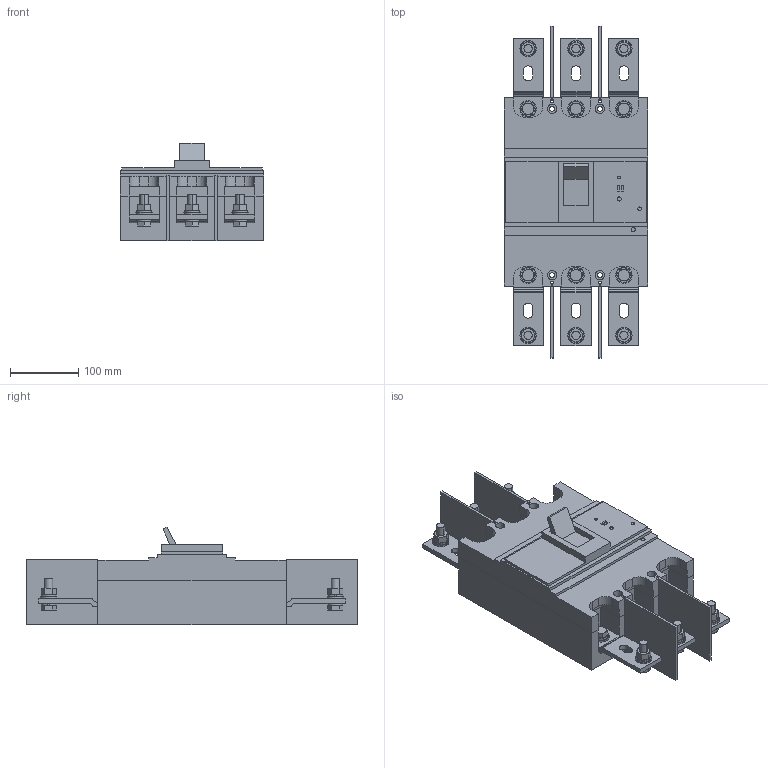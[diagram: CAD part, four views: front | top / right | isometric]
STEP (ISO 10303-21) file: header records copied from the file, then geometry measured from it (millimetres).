
FILE_DESCRIPTION (( 'STEP AP214' ), '1' );
FILE_NAME ('EW630EAG-3P.STEP', '2022-11-21T01:59:58', ( '' ), ( '' ), 'SwSTEP 2.0', 'SolidWorks 2021', '' );
FILE_SCHEMA (( 'AUTOMOTIVE_DESIGN' ));
Length unit declared in the file: millimetre
Products named in the file (11): アルミ端子板t7_630A.1; Hexagon_Nut_M12; terminal^EW630EAG-3P; Springwasher_M12; EW630-800EAG-3P_CASE; Hexagon_Bolt_M12_L40; Washer_M12; EW630EAG_Switch; B-43A; EW630EAG-3P; Hexagon_Bolt_M10_L25
Assembly tree (21 placements, depth 3):
  EW630EAG-3P
    EW630-800EAG-3P_CASE
    EW630EAG_Switch
    terminal^EW630EAG-3P  x6
      Hexagon_Bolt_M12_L40
      Hexagon_Bolt_M10_L25
      Hexagon_Nut_M12
      Springwasher_M12
      Washer_M12
      アルミ端子板t7_630A.1
    B-43A  x4
Bounding box: 210 x 485 x 143.2 mm (x, y, z)
Volume: 5618278.7 mm3; surface area: 591858.2 mm2
Topology: 61 solids, 61 shells, 920 faces, 2178 edges, 1410 vertices
Faces by surface type: plane 552, cylinder 242, cone 126
Entity records: 11493 total; most frequent: CARTESIAN_POINT 2123, ORIENTED_EDGE 1842, DIRECTION 1822, EDGE_CURVE 921, LINE 706, VECTOR 706, VERTEX_POINT 607, AXIS2_PLACEMENT_3D 558
